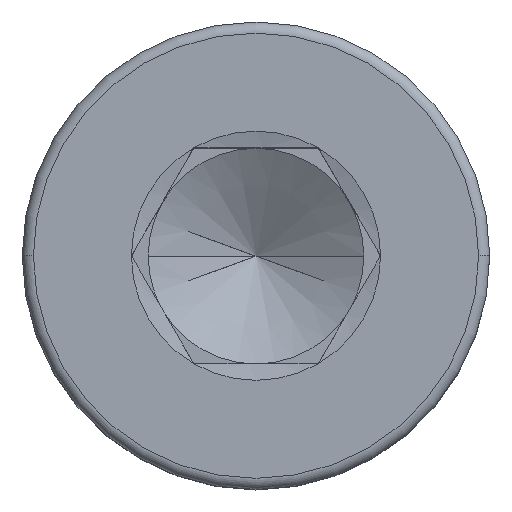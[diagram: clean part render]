
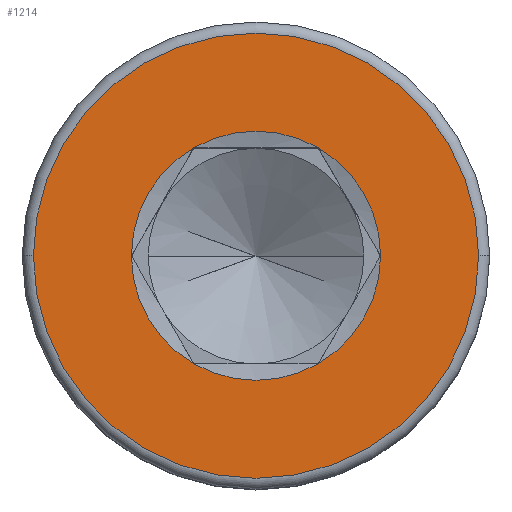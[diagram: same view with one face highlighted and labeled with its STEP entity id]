
A CAD part, top view. The second image highlights one B-rep face of the part: STEP entity #1214.
In plain terms, the highlighted planar face has unit normal (0, 0, 1).
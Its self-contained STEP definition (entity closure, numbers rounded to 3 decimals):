
#22 = DIRECTION ( 'NONE',  ( 0., 0., 1. ) ) ;
#45 = CARTESIAN_POINT ( 'NONE',  ( 0., 0., 8. ) ) ;
#83 = FACE_BOUND ( 'NONE', #96, .T. ) ;
#94 = DIRECTION ( 'NONE',  ( 0., 0., 1. ) ) ;
#96 = EDGE_LOOP ( 'NONE', ( #928, #460, #804, #678, #603, #554 ) ) ;
#136 = CARTESIAN_POINT ( 'NONE',  ( 1.732, 3., 8. ) ) ;
#161 = VERTEX_POINT ( 'NONE', #1436 ) ;
#192 = DIRECTION ( 'NONE',  ( 1., 0., 0. ) ) ;
#231 = FACE_OUTER_BOUND ( 'NONE', #1115, .T. ) ;
#263 = CIRCLE ( 'NONE', #809, 6.19 ) ;
#276 = AXIS2_PLACEMENT_3D ( 'NONE', #298, #22, #1682 ) ;
#279 = DIRECTION ( 'NONE',  ( 0., 0., 1. ) ) ;
#298 = CARTESIAN_POINT ( 'NONE',  ( 0., 0., 8. ) ) ;
#327 = AXIS2_PLACEMENT_3D ( 'NONE', #781, #94, #650 ) ;
#341 = CARTESIAN_POINT ( 'NONE',  ( -6.19, 0., 8. ) ) ;
#342 = DIRECTION ( 'NONE',  ( 0., 0., 1. ) ) ;
#352 = VERTEX_POINT ( 'NONE', #341 ) ;
#360 = CARTESIAN_POINT ( 'NONE',  ( 0., 0., 8. ) ) ;
#388 = CIRCLE ( 'NONE', #1428, 3.464 ) ;
#395 = DIRECTION ( 'NONE',  ( 0., 0., 1. ) ) ;
#453 = DIRECTION ( 'NONE',  ( 0., 0., 1. ) ) ;
#460 = ORIENTED_EDGE ( 'NONE', *, *, #881, .F. ) ;
#490 = CARTESIAN_POINT ( 'NONE',  ( 0., 0., 8. ) ) ;
#518 = DIRECTION ( 'NONE',  ( 0., 0., 1. ) ) ;
#535 = DIRECTION ( 'NONE',  ( 1., 0., 0. ) ) ;
#553 = VERTEX_POINT ( 'NONE', #1386 ) ;
#554 = ORIENTED_EDGE ( 'NONE', *, *, #1554, .F. ) ;
#558 = EDGE_CURVE ( 'NONE', #912, #960, #990, .T. ) ;
#575 = CARTESIAN_POINT ( 'NONE',  ( 1.732, -3., 8. ) ) ;
#603 = ORIENTED_EDGE ( 'NONE', *, *, #1515, .F. ) ;
#635 = DIRECTION ( 'NONE',  ( 1., 0., 0. ) ) ;
#650 = DIRECTION ( 'NONE',  ( 1., 0., 0. ) ) ;
#665 = CARTESIAN_POINT ( 'NONE',  ( -1.732, 3., 8. ) ) ;
#678 = ORIENTED_EDGE ( 'NONE', *, *, #1474, .F. ) ;
#682 = CARTESIAN_POINT ( 'NONE',  ( 0., 0., 8. ) ) ;
#716 = DIRECTION ( 'NONE',  ( 1., 0., 0. ) ) ;
#735 = CARTESIAN_POINT ( 'NONE',  ( 0., 0., 8. ) ) ;
#751 = DIRECTION ( 'NONE',  ( 1., 0., 0. ) ) ;
#780 = AXIS2_PLACEMENT_3D ( 'NONE', #360, #1720, #751 ) ;
#781 = CARTESIAN_POINT ( 'NONE',  ( 0., 0., 8. ) ) ;
#803 = DIRECTION ( 'NONE',  ( 1., 0., 0. ) ) ;
#804 = ORIENTED_EDGE ( 'NONE', *, *, #807, .F. ) ;
#807 = EDGE_CURVE ( 'NONE', #161, #1067, #1459, .T. ) ;
#809 = AXIS2_PLACEMENT_3D ( 'NONE', #682, #395, #803 ) ;
#840 = VERTEX_POINT ( 'NONE', #665 ) ;
#881 = EDGE_CURVE ( 'NONE', #1067, #912, #388, .T. ) ;
#898 = CARTESIAN_POINT ( 'NONE',  ( -3.464, 0., 8. ) ) ;
#912 = VERTEX_POINT ( 'NONE', #1506 ) ;
#928 = ORIENTED_EDGE ( 'NONE', *, *, #558, .F. ) ;
#960 = VERTEX_POINT ( 'NONE', #136 ) ;
#967 = AXIS2_PLACEMENT_3D ( 'NONE', #45, #342, #192 ) ;
#990 = CIRCLE ( 'NONE', #1769, 3.464 ) ;
#1035 = ORIENTED_EDGE ( 'NONE', *, *, #1579, .T. ) ;
#1058 = CIRCLE ( 'NONE', #1598, 3.464 ) ;
#1067 = VERTEX_POINT ( 'NONE', #575 ) ;
#1074 = CARTESIAN_POINT ( 'NONE',  ( 0., 0., 8. ) ) ;
#1115 = EDGE_LOOP ( 'NONE', ( #1035, #1626 ) ) ;
#1163 = VERTEX_POINT ( 'NONE', #898 ) ;
#1214 = ADVANCED_FACE ( 'NONE', ( #231, #83 ), #1749, .T. ) ;
#1282 = DIRECTION ( 'NONE',  ( 1., 0., 0. ) ) ;
#1350 = CIRCLE ( 'NONE', #276, 3.464 ) ;
#1386 = CARTESIAN_POINT ( 'NONE',  ( 6.19, 0., 8. ) ) ;
#1404 = DIRECTION ( 'NONE',  ( 0., 0., 1. ) ) ;
#1428 = AXIS2_PLACEMENT_3D ( 'NONE', #1074, #279, #535 ) ;
#1436 = CARTESIAN_POINT ( 'NONE',  ( -1.732, -3., 8. ) ) ;
#1459 = CIRCLE ( 'NONE', #327, 3.464 ) ;
#1474 = EDGE_CURVE ( 'NONE', #1163, #161, #1058, .T. ) ;
#1506 = CARTESIAN_POINT ( 'NONE',  ( 3.464, 0., 8. ) ) ;
#1515 = EDGE_CURVE ( 'NONE', #840, #1163, #1350, .T. ) ;
#1554 = EDGE_CURVE ( 'NONE', #960, #840, #1744, .T. ) ;
#1579 = EDGE_CURVE ( 'NONE', #553, #352, #1677, .T. ) ;
#1598 = AXIS2_PLACEMENT_3D ( 'NONE', #735, #1404, #716 ) ;
#1626 = ORIENTED_EDGE ( 'NONE', *, *, #1766, .T. ) ;
#1677 = CIRCLE ( 'NONE', #780, 6.19 ) ;
#1682 = DIRECTION ( 'NONE',  ( 1., 0., 0. ) ) ;
#1688 = CARTESIAN_POINT ( 'NONE',  ( 0., 0., 8. ) ) ;
#1718 = AXIS2_PLACEMENT_3D ( 'NONE', #490, #518, #635 ) ;
#1720 = DIRECTION ( 'NONE',  ( 0., 0., 1. ) ) ;
#1744 = CIRCLE ( 'NONE', #967, 3.464 ) ;
#1749 = PLANE ( 'NONE',  #1718 ) ;
#1766 = EDGE_CURVE ( 'NONE', #352, #553, #263, .T. ) ;
#1769 = AXIS2_PLACEMENT_3D ( 'NONE', #1688, #453, #1282 ) ;
